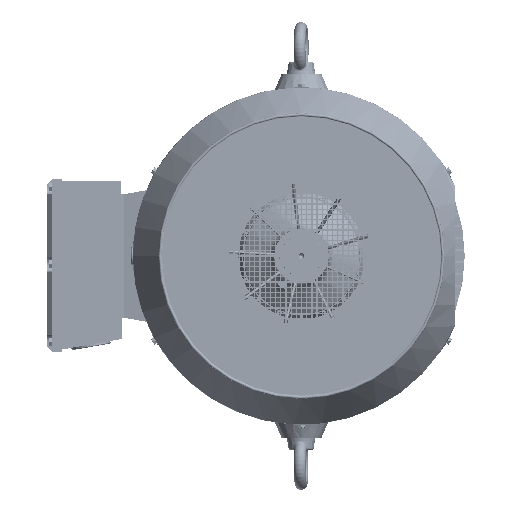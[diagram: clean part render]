
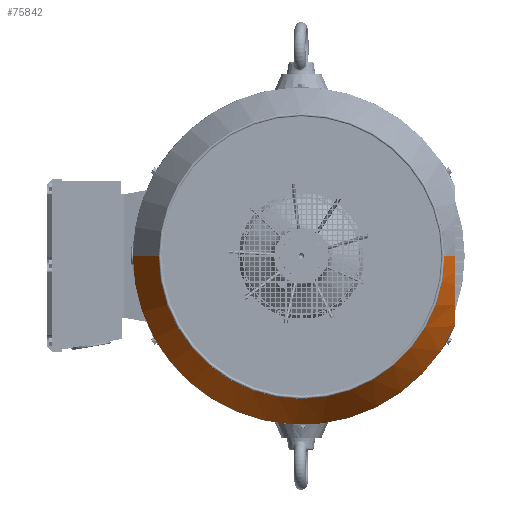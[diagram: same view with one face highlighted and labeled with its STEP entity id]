
A CAD part, left-side view. The second image highlights one B-rep face of the part: STEP entity #75842.
In plain terms, the highlighted conical face has half-angle 30 degrees and reference radius 341 mm.
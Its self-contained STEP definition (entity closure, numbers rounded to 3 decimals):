
#75842 = ADVANCED_FACE ( 'NONE', ( #220067 ), #220123, .T. ) ;
#75843 = EDGE_LOOP ( 'NONE', ( #75844, #75845, #75947, #75951, #75958 ) ) ;
#75844 = ORIENTED_EDGE ( 'NONE', *, *, #75868, .T. ) ;
#75845 = ORIENTED_EDGE ( 'NONE', *, *, #75942, .T. ) ;
#75866 = VERTEX_POINT ( 'NONE', #220098 ) ;
#75868 = EDGE_CURVE ( 'NONE', #75869, #75866, #220155, .T. ) ;
#75869 = VERTEX_POINT ( 'NONE', #220150 ) ;
#75942 = EDGE_CURVE ( 'NONE', #75866, #75945, #220378, .T. ) ;
#75945 = VERTEX_POINT ( 'NONE', #220374 ) ;
#75947 = ORIENTED_EDGE ( 'NONE', *, *, #75949, .F. ) ;
#75949 = EDGE_CURVE ( 'NONE', #75950, #75945, #220373, .T. ) ;
#75950 = VERTEX_POINT ( 'NONE', #220368 ) ;
#75951 = ORIENTED_EDGE ( 'NONE', *, *, #75954, .T. ) ;
#75954 = EDGE_CURVE ( 'NONE', #75950, #75957, #220358, .T. ) ;
#75957 = VERTEX_POINT ( 'NONE', #220357 ) ;
#75958 = ORIENTED_EDGE ( 'NONE', *, *, #75959, .F. ) ;
#75959 = EDGE_CURVE ( 'NONE', #75869, #75957, #220359, .T. ) ;
#220067 = FACE_OUTER_BOUND ( 'NONE', #75843, .T. ) ;
#220098 = CARTESIAN_POINT ( 'NONE',  ( 0., 312., 289. ) ) ;
#220120 = DIRECTION ( 'NONE',  ( 0., 0., -1. ) ) ;
#220121 = DIRECTION ( 'NONE',  ( 0., -1., 0. ) ) ;
#220122 = AXIS2_PLACEMENT_3D ( 'NONE', #220125, #220121, #220120 ) ;
#220123 = CONICAL_SURFACE ( 'NONE', #220122, 341., 0.524 ) ;
#220125 = CARTESIAN_POINT ( 'NONE',  ( 0., 221.933, 0. ) ) ;
#220150 = CARTESIAN_POINT ( 'NONE',  ( 0., 312., -289. ) ) ;
#220151 = DIRECTION ( 'NONE',  ( 0., 0., -1. ) ) ;
#220152 = DIRECTION ( 'NONE',  ( 0., -1., 0. ) ) ;
#220153 = CARTESIAN_POINT ( 'NONE',  ( 0., 312., 0. ) ) ;
#220154 = AXIS2_PLACEMENT_3D ( 'NONE', #220153, #220152, #220151 ) ;
#220155 = CIRCLE ( 'NONE', #220154, 289. ) ;
#220357 = CARTESIAN_POINT ( 'NONE',  ( 0., 275.627, -310. ) ) ;
#220358 = B_SPLINE_CURVE_WITH_KNOTS ( 'NONE', 3,
 ( #220426, #220425, #220424, #220423, #220422, #220421, #220420, #220419, #220418, #220417, #220416, #220415, #220414, #220413, #220412, #220411, #220410, #220409, #220408, #220407, #220406, #220405, #220404, #220403 ),
 .UNSPECIFIED., .F., .F.,
 ( 4, 2, 2, 2, 2, 2, 2, 2, 2, 2, 2, 4 ),
 ( 0.159, 0.178, 0.188, 0.192, 0.197, 0.216, 0.235, 0.255, 0.264, 0.269, 0.274, 0.312 ),
 .UNSPECIFIED. ) ;
#220359 = LINE ( 'NONE', #220366, #220365 ) ;
#220364 = DIRECTION ( 'NONE',  ( 0., -0.866, -0.5 ) ) ;
#220365 = VECTOR ( 'NONE', #220364, 1000. ) ;
#220366 = CARTESIAN_POINT ( 'NONE',  ( 0., 221.933, -341. ) ) ;
#220368 = CARTESIAN_POINT ( 'NONE',  ( 142.06, 221.933, -310. ) ) ;
#220369 = DIRECTION ( 'NONE',  ( 0., 0., -1. ) ) ;
#220370 = DIRECTION ( 'NONE',  ( 0., -1., 0. ) ) ;
#220371 = CARTESIAN_POINT ( 'NONE',  ( 0., 221.933, 0. ) ) ;
#220372 = AXIS2_PLACEMENT_3D ( 'NONE', #220371, #220370, #220369 ) ;
#220373 = CIRCLE ( 'NONE', #220372, 341. ) ;
#220374 = CARTESIAN_POINT ( 'NONE',  ( 0., 221.933, 341. ) ) ;
#220375 = DIRECTION ( 'NONE',  ( 0., -0.866, 0.5 ) ) ;
#220376 = VECTOR ( 'NONE', #220375, 1000. ) ;
#220377 = CARTESIAN_POINT ( 'NONE',  ( 0., 221.933, 341. ) ) ;
#220378 = LINE ( 'NONE', #220377, #220376 ) ;
#220403 = CARTESIAN_POINT ( 'NONE',  ( 0., 275.627, -310. ) ) ;
#220404 = CARTESIAN_POINT ( 'NONE',  ( 12.784, 275.627, -310. ) ) ;
#220405 = CARTESIAN_POINT ( 'NONE',  ( 25.535, 274.252, -310. ) ) ;
#220406 = CARTESIAN_POINT ( 'NONE',  ( 39.842, 271.218, -310. ) ) ;
#220407 = CARTESIAN_POINT ( 'NONE',  ( 41.43, 270.86, -310. ) ) ;
#220408 = CARTESIAN_POINT ( 'NONE',  ( 44.588, 270.108, -310. ) ) ;
#220409 = CARTESIAN_POINT ( 'NONE',  ( 46.16, 269.714, -310. ) ) ;
#220410 = CARTESIAN_POINT ( 'NONE',  ( 50.852, 268.477, -310. ) ) ;
#220411 = CARTESIAN_POINT ( 'NONE',  ( 53.95, 267.581, -310. ) ) ;
#220412 = CARTESIAN_POINT ( 'NONE',  ( 63.164, 264.695, -310. ) ) ;
#220413 = CARTESIAN_POINT ( 'NONE',  ( 69.196, 262.504, -310. ) ) ;
#220414 = CARTESIAN_POINT ( 'NONE',  ( 81.071, 257.659, -310. ) ) ;
#220415 = CARTESIAN_POINT ( 'NONE',  ( 86.913, 255.005, -310. ) ) ;
#220416 = CARTESIAN_POINT ( 'NONE',  ( 98.43, 249.292, -310. ) ) ;
#220417 = CARTESIAN_POINT ( 'NONE',  ( 104.106, 246.232, -310. ) ) ;
#220418 = CARTESIAN_POINT ( 'NONE',  ( 111.108, 242.186, -310. ) ) ;
#220419 = CARTESIAN_POINT ( 'NONE',  ( 112.505, 241.365, -310. ) ) ;
#220420 = CARTESIAN_POINT ( 'NONE',  ( 115.285, 239.704, -310. ) ) ;
#220421 = CARTESIAN_POINT ( 'NONE',  ( 116.667, 238.865, -310. ) ) ;
#220422 = CARTESIAN_POINT ( 'NONE',  ( 120.792, 236.323, -310. ) ) ;
#220423 = CARTESIAN_POINT ( 'NONE',  ( 123.512, 234.595, -310. ) ) ;
#220424 = CARTESIAN_POINT ( 'NONE',  ( 131.592, 229.318, -310. ) ) ;
#220425 = CARTESIAN_POINT ( 'NONE',  ( 136.871, 225.677, -310. ) ) ;
#220426 = CARTESIAN_POINT ( 'NONE',  ( 142.06, 221.933, -310. ) ) ;
